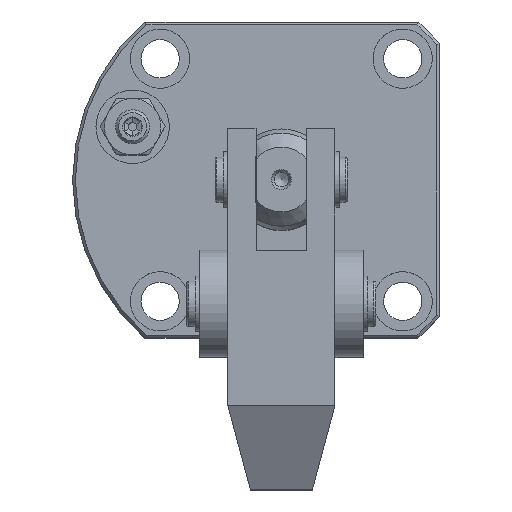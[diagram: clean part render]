
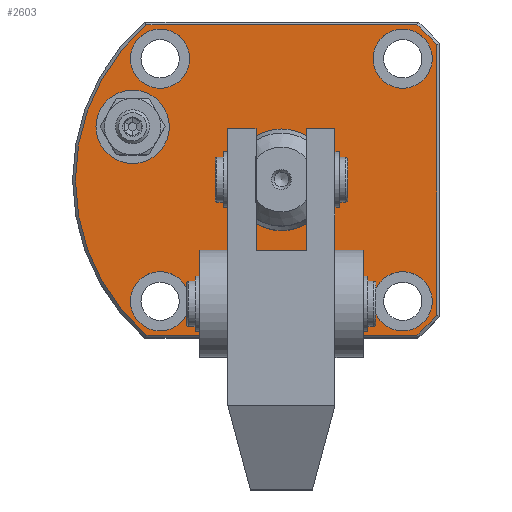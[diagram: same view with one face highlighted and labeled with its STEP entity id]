
A CAD part, top view. The second image highlights one B-rep face of the part: STEP entity #2603.
In plain terms, the highlighted planar face has unit normal (0, 0, 1).
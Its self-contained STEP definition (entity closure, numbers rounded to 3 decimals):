
#260=LINE('',#3995,#385);
#269=LINE('',#4013,#394);
#277=LINE('',#4032,#402);
#278=LINE('',#4034,#403);
#279=LINE('',#4038,#404);
#280=LINE('',#4042,#405);
#281=LINE('',#4046,#406);
#385=VECTOR('',#3202,1000.);
#394=VECTOR('',#3217,1000.);
#402=VECTOR('',#3237,1000.);
#403=VECTOR('',#3240,1000.);
#404=VECTOR('',#3243,1000.);
#405=VECTOR('',#3246,1000.);
#406=VECTOR('',#3249,1000.);
#549=ORIENTED_EDGE('',*,*,#1185,.F.);
#550=ORIENTED_EDGE('',*,*,#1204,.T.);
#551=ORIENTED_EDGE('',*,*,#1205,.T.);
#552=ORIENTED_EDGE('',*,*,#1206,.T.);
#553=ORIENTED_EDGE('',*,*,#1207,.T.);
#554=ORIENTED_EDGE('',*,*,#1208,.T.);
#555=ORIENTED_EDGE('',*,*,#1209,.T.);
#556=ORIENTED_EDGE('',*,*,#1210,.T.);
#557=ORIENTED_EDGE('',*,*,#1203,.T.);
#558=ORIENTED_EDGE('',*,*,#1194,.F.);
#559=ORIENTED_EDGE('',*,*,#1211,.T.);
#560=ORIENTED_EDGE('',*,*,#1212,.T.);
#561=ORIENTED_EDGE('',*,*,#1213,.T.);
#562=ORIENTED_EDGE('',*,*,#1214,.T.);
#563=ORIENTED_EDGE('',*,*,#1215,.T.);
#564=ORIENTED_EDGE('',*,*,#1216,.F.);
#1185=EDGE_CURVE('',#1522,#1523,#260,.T.);
#1194=EDGE_CURVE('',#1523,#1529,#269,.T.);
#1203=EDGE_CURVE('',#1528,#1529,#277,.T.);
#1204=EDGE_CURVE('',#1522,#1534,#278,.T.);
#1205=EDGE_CURVE('',#1534,#1535,#1771,.T.);
#1206=EDGE_CURVE('',#1535,#1536,#279,.T.);
#1207=EDGE_CURVE('',#1536,#1537,#1772,.T.);
#1208=EDGE_CURVE('',#1537,#1538,#280,.T.);
#1209=EDGE_CURVE('',#1538,#1539,#1773,.T.);
#1210=EDGE_CURVE('',#1539,#1528,#281,.T.);
#1211=EDGE_CURVE('',#1540,#1540,#1774,.T.);
#1212=EDGE_CURVE('',#1541,#1541,#1775,.T.);
#1213=EDGE_CURVE('',#1542,#1542,#1776,.T.);
#1214=EDGE_CURVE('',#1543,#1543,#1777,.T.);
#1215=EDGE_CURVE('',#1544,#1544,#1778,.T.);
#1216=EDGE_CURVE('',#1545,#1545,#1779,.T.);
#1522=VERTEX_POINT('',#3994);
#1523=VERTEX_POINT('',#3996);
#1528=VERTEX_POINT('',#4010);
#1529=VERTEX_POINT('',#4014);
#1534=VERTEX_POINT('',#4035);
#1535=VERTEX_POINT('',#4037);
#1536=VERTEX_POINT('',#4039);
#1537=VERTEX_POINT('',#4041);
#1538=VERTEX_POINT('',#4043);
#1539=VERTEX_POINT('',#4045);
#1540=VERTEX_POINT('',#4048);
#1541=VERTEX_POINT('',#4050);
#1542=VERTEX_POINT('',#4052);
#1543=VERTEX_POINT('',#4054);
#1544=VERTEX_POINT('',#4056);
#1545=VERTEX_POINT('',#4058);
#1771=CIRCLE('',#2873,36.5);
#1772=CIRCLE('',#2874,36.5);
#1773=CIRCLE('',#2875,36.5);
#1774=CIRCLE('',#2876,9.);
#1775=CIRCLE('',#2877,5.25);
#1776=CIRCLE('',#2878,5.25);
#1777=CIRCLE('',#2879,5.25);
#1778=CIRCLE('',#2880,5.25);
#1779=CIRCLE('',#2881,6.5);
#1925=EDGE_LOOP('',(#549,#550,#551,#552,#553,#554,#555,#556,#557,#558));
#1926=EDGE_LOOP('',(#559));
#1927=EDGE_LOOP('',(#560));
#1928=EDGE_LOOP('',(#561));
#1929=EDGE_LOOP('',(#562));
#1930=EDGE_LOOP('',(#563));
#1931=EDGE_LOOP('',(#564));
#2222=FACE_BOUND('',#1925,.T.);
#2223=FACE_BOUND('',#1926,.T.);
#2224=FACE_BOUND('',#1927,.T.);
#2225=FACE_BOUND('',#1928,.T.);
#2226=FACE_BOUND('',#1929,.T.);
#2227=FACE_BOUND('',#1930,.T.);
#2228=FACE_BOUND('',#1931,.T.);
#2516=PLANE('',#2872);
#2603=ADVANCED_FACE('',(#2222,#2223,#2224,#2225,#2226,#2227,#2228),#2516,
 .T.);
#2872=AXIS2_PLACEMENT_3D('',#4033,#3238,#3239);
#2873=AXIS2_PLACEMENT_3D('',#4036,#3241,#3242);
#2874=AXIS2_PLACEMENT_3D('',#4040,#3244,#3245);
#2875=AXIS2_PLACEMENT_3D('',#4044,#3247,#3248);
#2876=AXIS2_PLACEMENT_3D('',#4047,#3250,#3251);
#2877=AXIS2_PLACEMENT_3D('',#4049,#3252,#3253);
#2878=AXIS2_PLACEMENT_3D('',#4051,#3254,#3255);
#2879=AXIS2_PLACEMENT_3D('',#4053,#3256,#3257);
#2880=AXIS2_PLACEMENT_3D('',#4055,#3258,#3259);
#2881=AXIS2_PLACEMENT_3D('',#4057,#3260,#3261);
#3202=DIRECTION('',(0.,1.,0.));
#3217=DIRECTION('',(-1.,0.,0.));
#3237=DIRECTION('',(0.,1.,0.));
#3238=DIRECTION('',(0.,0.,1.));
#3239=DIRECTION('',(0.,-1.,0.));
#3240=DIRECTION('',(1.,0.,0.));
#3241=DIRECTION('',(0.,0.,1.));
#3242=DIRECTION('',(0.,-1.,0.));
#3243=DIRECTION('',(0.,1.,0.));
#3244=DIRECTION('',(0.,0.,1.));
#3245=DIRECTION('',(0.,-1.,0.));
#3246=DIRECTION('',(-1.,0.,0.));
#3247=DIRECTION('',(0.,0.,1.));
#3248=DIRECTION('',(0.,-1.,0.));
#3249=DIRECTION('',(1.,0.,0.));
#3250=DIRECTION('',(0.,0.,-1.));
#3251=DIRECTION('',(0.,-1.,0.));
#3252=DIRECTION('',(0.,0.,-1.));
#3253=DIRECTION('',(0.,-1.,0.));
#3254=DIRECTION('',(0.,0.,-1.));
#3255=DIRECTION('',(0.,-1.,0.));
#3256=DIRECTION('',(0.,0.,-1.));
#3257=DIRECTION('',(0.,-1.,0.));
#3258=DIRECTION('',(0.,0.,-1.));
#3259=DIRECTION('',(0.,-1.,0.));
#3260=DIRECTION('',(0.,0.,1.));
#3261=DIRECTION('',(1.,0.,0.));
#3994=CARTESIAN_POINT('',(0.25,1.5,15.));
#3995=CARTESIAN_POINT('',(0.25,15.,15.));
#3996=CARTESIAN_POINT('',(0.25,15.,15.));
#4010=CARTESIAN_POINT('',(-18.75,1.5,15.));
#4013=CARTESIAN_POINT('',(-9.25,15.,15.));
#4014=CARTESIAN_POINT('',(-18.75,15.,15.));
#4032=CARTESIAN_POINT('',(-18.75,15.,15.));
#4033=CARTESIAN_POINT('',(-9.25,29.,15.));
#4034=CARTESIAN_POINT('',(-9.25,1.5,15.));
#4035=CARTESIAN_POINT('',(14.75,1.5,15.));
#4036=CARTESIAN_POINT('',(-9.25,29.,15.));
#4037=CARTESIAN_POINT('',(18.25,5.,15.));
#4038=CARTESIAN_POINT('',(18.25,29.,15.));
#4039=CARTESIAN_POINT('',(18.25,53.,15.));
#4040=CARTESIAN_POINT('',(-9.25,29.,15.));
#4041=CARTESIAN_POINT('',(14.75,56.5,15.));
#4042=CARTESIAN_POINT('',(-9.25,56.5,15.));
#4043=CARTESIAN_POINT('',(-33.25,56.5,15.));
#4044=CARTESIAN_POINT('',(-9.25,29.,15.));
#4045=CARTESIAN_POINT('',(-33.25,1.5,15.));
#4046=CARTESIAN_POINT('',(-9.25,1.5,15.));
#4047=CARTESIAN_POINT('',(-9.25,29.,15.));
#4048=CARTESIAN_POINT('',(-9.25,20.,15.));
#4049=CARTESIAN_POINT('',(12.25,7.5,15.));
#4050=CARTESIAN_POINT('',(12.25,2.25,15.));
#4051=CARTESIAN_POINT('',(12.25,50.5,15.));
#4052=CARTESIAN_POINT('',(12.25,45.25,15.));
#4053=CARTESIAN_POINT('',(-30.75,50.5,15.));
#4054=CARTESIAN_POINT('',(-30.75,45.25,15.));
#4055=CARTESIAN_POINT('',(-30.75,7.5,15.));
#4056=CARTESIAN_POINT('',(-30.75,2.25,15.));
#4057=CARTESIAN_POINT('',(-35.62,38.42,15.));
#4058=CARTESIAN_POINT('',(-29.12,38.42,15.));
